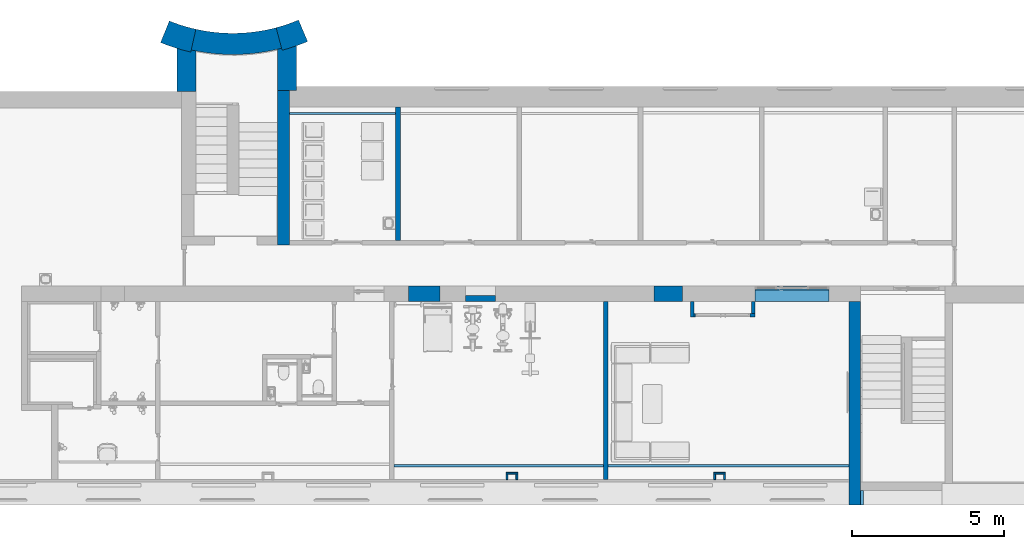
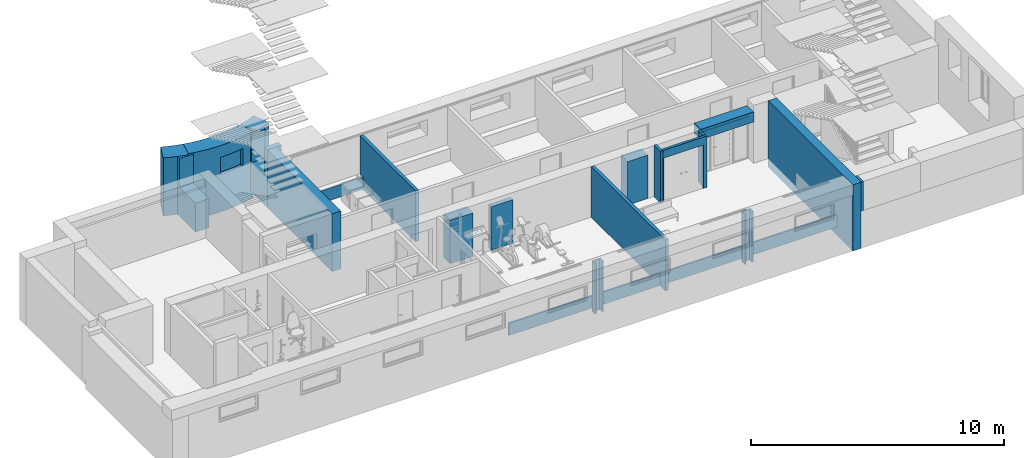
# One storey, part 5 of 23: 27 walls, 9 openings.
"""IFC2X3 building model written with IfcOpenShell, lengths in millimetres."""

from ifc_helpers import new_model, entity, si_unit, converted_unit, derived_unit, direction, frame, frame_2d, origin, origin_2d_with_axis, place, context, subcontext, project, spatial, polyline, circle_curve, parameter, trimmed, segment, composite_curve, rectangle, outline, extrude, material, layer, layer_set, layer_usage, type_object, element, save


model = new_model("IFC2X3")

# Units and contexts
model_context = context("Model", 3, precision=0.01, world=origin(), true_north=direction((6.12303176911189e-17, 1.0)))
body_context = subcontext(model_context, "Body", "Model", "MODEL_VIEW")
ifc_project = project(units=[si_unit("LENGTHUNIT", "METRE", prefix="MILLI"), si_unit("AREAUNIT", "SQUARE_METRE"), si_unit("VOLUMEUNIT", "CUBIC_METRE"), converted_unit("PLANEANGLEUNIT", "DEGREE", entity("IfcRatioMeasure", 0.0174532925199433), si_unit("PLANEANGLEUNIT", "RADIAN"), dimensions=[0, 0, 0, 0, 0, 0, 0]), si_unit("MASSUNIT", "GRAM", prefix="KILO"), derived_unit("MASSDENSITYUNIT", [(si_unit("MASSUNIT", "GRAM", prefix="KILO"), 1), (si_unit("LENGTHUNIT", "METRE"), -3)]), si_unit("TIMEUNIT", "SECOND"), si_unit("FREQUENCYUNIT", "HERTZ"), si_unit("THERMODYNAMICTEMPERATUREUNIT", "DEGREE_CELSIUS"), derived_unit("THERMALTRANSMITTANCEUNIT", [(si_unit("MASSUNIT", "GRAM", prefix="KILO"), 1), (si_unit("THERMODYNAMICTEMPERATUREUNIT", "KELVIN"), -1), (si_unit("TIMEUNIT", "SECOND"), -3)]), derived_unit("VOLUMETRICFLOWRATEUNIT", [(si_unit("LENGTHUNIT", "METRE"), 3), (si_unit("TIMEUNIT", "SECOND"), -1)]), si_unit("ELECTRICCURRENTUNIT", "AMPERE"), si_unit("ELECTRICVOLTAGEUNIT", "VOLT"), si_unit("POWERUNIT", "WATT"), si_unit("FORCEUNIT", "NEWTON", prefix="KILO"), si_unit("ILLUMINANCEUNIT", "LUX"), si_unit("LUMINOUSFLUXUNIT", "LUMEN"), si_unit("LUMINOUSINTENSITYUNIT", "CANDELA"), derived_unit("USERDEFINED", [(si_unit("MASSUNIT", "GRAM", prefix="KILO"), -1), (si_unit("LENGTHUNIT", "METRE"), -2), (si_unit("TIMEUNIT", "SECOND"), 3), (si_unit("LUMINOUSFLUXUNIT", "LUMEN"), 1)]), derived_unit("LINEARVELOCITYUNIT", [(si_unit("LENGTHUNIT", "METRE"), 1), (si_unit("TIMEUNIT", "SECOND"), -1)]), si_unit("PRESSUREUNIT", "PASCAL"), derived_unit("USERDEFINED", [(si_unit("LENGTHUNIT", "METRE"), -2), (si_unit("MASSUNIT", "GRAM", prefix="KILO"), 1), (si_unit("TIMEUNIT", "SECOND"), -2)]), derived_unit("LINEARFORCEUNIT", [(si_unit("MASSUNIT", "GRAM", prefix="KILO"), 1), (si_unit("LENGTHUNIT", "METRE"), 1), (si_unit("TIMEUNIT", "SECOND"), -2), (si_unit("LENGTHUNIT", "METRE"), -1)]), derived_unit("PLANARFORCEUNIT", [(si_unit("MASSUNIT", "GRAM", prefix="KILO"), 1), (si_unit("LENGTHUNIT", "METRE"), 1), (si_unit("TIMEUNIT", "SECOND"), -2), (si_unit("LENGTHUNIT", "METRE"), -2)])], contexts=[model_context])

# Site, building, storey
site_placement = place(None, origin())
site = spatial("IfcSite", under=ifc_project, at=site_placement, Name="Default", CompositionType="ELEMENT")
building_placement = place(site_placement, origin())
building = spatial("IfcBuilding", under=site, at=building_placement, Name="SMA ARH", CompositionType="ELEMENT")
storey_placement = place(building_placement, frame((0.0, 0.0, -2800.0)))
storey = spatial("IfcBuildingStorey", under=building, at=storey_placement, Name="0 Sokkel", CompositionType="ELEMENT", Elevation=-2800.0)

# Wall, openings
ifc_material_1 = material(Name="_ol.olev sein")
ifc_layer_1 = layer(ifc_material_1, 700.0)
ifc_layer_set_1 = layer_set([ifc_layer_1], Name="Basic Wall:Generic - 700mm")
ifc_layer_usage_1 = layer_usage(ifc_layer_set_1, "AXIS2", "POSITIVE", -350.0)
wall_type_1 = type_object("IfcWallType", Name="Basic Wall:Generic - 700mm", PredefinedType="STANDARD", material=ifc_layer_set_1)
wall_1_placement = place(storey_placement, frame((11643.6960006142, 14708.1521207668, -405.950000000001)))
wall_1 = element("IfcWallStandardCase", 1, at=wall_1_placement, inside=storey, type_object=wall_type_1, material=ifc_layer_usage_1, Name="Basic Wall:Generic - 700mm", ObjectType="Basic Wall:Generic - 700mm", context=body_context, shape_type="SweptSolid", body=[
    extrude(outline(composite_curve([segment(trimmed(circle_curve(frame_2d((-1518.85216172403, 5721.98676812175), x_axis=(1.0, 0.0)), 6270.13888888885), [parameter(257.366310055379)], [parameter(284.86585519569)], True, "PARAMETER"), True, "CONTINUOUS"), segment(polyline([(89.7948961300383, -338.285200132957), (-89.7948961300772, 338.285200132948)]), True, "CONTINUOUS"), segment(trimmed(circle_curve(frame_2d((-1518.85216172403, 5721.98676812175), x_axis=(1.0, 0.0)), 5570.13888888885), [parameter(257.366310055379)], [parameter(284.86585519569)], True, "PARAMETER"), False, "CONTINUOUS"), segment(polyline([(-2737.13646946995, 286.710272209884), (-2890.23839967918, -396.341555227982)]), True, "CONTINUOUS")], self_intersect=False)), origin(), (0.0, 0.0, 1.0), 3205.95),
])
opening_1_placement = place(wall_1_placement, origin())
element("IfcOpeningElement", 2, at=opening_1_placement, cuts=wall_1, Name="Basic Wall:Generic - 700mm", ObjectType="Opening", context=body_context, shape_type="SweptSolid", body=[
    extrude(rectangle(XDim=469.999999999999, YDim=1050.0, at=frame_2d((0.0, 2.1600499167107e-12), x_axis=(1.0, 0.0))), frame((191.303999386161, -972.55664470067, 1805.95)), (0.0, 0.0, 1.0), 2099.99999999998),
])
opening_2_placement = place(wall_1_placement, origin())
element("IfcOpeningElement", 3, at=opening_2_placement, cuts=wall_1, Name="Basic Wall:Generic - 700mm", ObjectType="Opening", context=body_context, shape_type="SweptSolid", body=[
    extrude(outline(composite_curve([segment(trimmed(circle_curve(frame_2d((-47.0607839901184, 6119.12473077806), x_axis=(1.0, 0.0)), 6270.13888888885), [parameter(261.038833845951)], [parameter(279.775431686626)], True, "PARAMETER"), True, "CONTINUOUS"), segment(polyline([(1017.52692784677, -59.9767160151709), (981.283991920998, 75.2837622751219)]), True, "CONTINUOUS"), segment(trimmed(circle_curve(frame_2d((-47.0607839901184, 6159.12473077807), x_axis=(1.0, 0.0)), 6170.13888888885), [parameter(261.349588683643)], [parameter(279.593957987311)], True, "PARAMETER"), False, "CONTINUOUS"), segment(polyline([(-975.081981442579, 59.1746846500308), (-1023.72893832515, -74.4817309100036)]), True, "CONTINUOUS")], self_intersect=False)), frame((-1456.63521662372, -397.13796265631, 1805.95)), (0.0, 0.0, 1.0), 830.000000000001),
])

# Wall, opening
ifc_layer_2 = layer(ifc_material_1, 400.0)
ifc_layer_set_2 = layer_set([ifc_layer_2], Name="Basic Wall:Generic - 400mm")
ifc_layer_usage_2 = layer_usage(ifc_layer_set_2, "AXIS2", "POSITIVE", -200.0)
wall_type_2 = type_object("IfcWallType", Name="Basic Wall:Generic - 400mm", PredefinedType="STANDARD", material=ifc_layer_set_2)
wall_2_placement = place(storey_placement, frame((11800.0, 7875.0, 0.0), z_axis=(0.0, 0.0, 1.0), x_axis=(0.0, 1.0, 0.0)))
wall_2 = element("IfcWallStandardCase", 4, at=wall_2_placement, inside=storey, type_object=wall_type_2, material=ifc_layer_usage_2, Name="Basic Wall:Generic - 400mm", ObjectType="Basic Wall:Generic - 400mm", context=body_context, shape_type="SweptSolid", body=[
    extrude(rectangle(XDim=5100.00000000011, YDim=400.0, at=frame_2d((2550.00000000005, 2.8421709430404e-14), x_axis=(-1.0, 0.0))), origin(), (0.0, 0.0, 1.0), 2800.0),
])
opening_3_placement = place(wall_2_placement, origin())
element("IfcOpeningElement", 5, at=opening_3_placement, cuts=wall_2, Name="Basic Wall:Generic - 400mm", ObjectType="Opening", context=body_context, shape_type="SweptSolid", body=[
    extrude(rectangle(XDim=2099.99999999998, YDim=1050.0, at=origin_2d_with_axis()), frame((5860.59547606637, -1324.0, 2450.0), z_axis=(0.0, 1.0, 0.0), x_axis=(0.0, 0.0, 1.0)), (0.0, 0.0, 1.0), 3048.0),
])

ifc_layer_3 = layer(ifc_material_1, 770.0)
ifc_layer_set_3 = layer_set([ifc_layer_3], Name="Basic Wall:Generic - 770mm")
ifc_layer_usage_3 = layer_usage(ifc_layer_set_3, "AXIS2", "POSITIVE", -385.0)
wall_type_3 = type_object("IfcWallType", Name="Basic Wall:Generic - 770mm", PredefinedType="STANDARD", material=ifc_layer_set_3)
wall_3_placement = place(storey_placement, frame((12443.5635426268, 14944.9572035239, 0.0)))
wall_3 = element("IfcWallStandardCase", 6, at=wall_3_placement, inside=storey, type_object=wall_type_3, material=ifc_layer_usage_3, Name="Basic Wall:Generic - 770mm", ObjectType="Basic Wall:Generic - 770mm", context=body_context, shape_type="SweptSolid", body=[
    extrude(outline(composite_curve([segment(trimmed(circle_curve(frame_2d((-2318.71970373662, 5485.18168536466), x_axis=(1.0, 0.0)), 6340.13888888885), [parameter(284.86585519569)], [parameter(292.914962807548)], True, "PARAMETER"), True, "CONTINUOUS"), segment(polyline([(149.905334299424, -354.617245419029), (-149.905334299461, 354.617245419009)]), True, "CONTINUOUS"), segment(trimmed(circle_curve(frame_2d((-2318.71970373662, 5485.18168536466), x_axis=(1.0, 0.0)), 5570.13888888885), [parameter(284.86585519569)], [parameter(292.914962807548)], True, "PARAMETER"), False, "CONTINUOUS"), segment(polyline([(-889.662438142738, 101.48011737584), (-692.113666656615, -642.747322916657)]), True, "CONTINUOUS")], self_intersect=False)), origin(), (0.0, 0.0, 1.0), 2800.0),
])
opening_4_placement = place(wall_3_placement, origin())
element("IfcOpeningElement", 7, at=opening_4_placement, cuts=wall_3, Name="Basic Wall:Generic - 770mm", ObjectType="Opening", context=body_context, shape_type="SweptSolid", body=[
    extrude(rectangle(XDim=469.999999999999, YDim=1050.0, at=frame_2d((0.0, 2.1600499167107e-12), x_axis=(1.0, 0.0))), frame((-608.563542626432, -1209.36172745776, 1400.0)), (0.0, 0.0, 1.0), 2099.99999999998),
])

# Walls
ifc_layer_usage_4 = layer_usage(ifc_layer_set_3, "AXIS2", "POSITIVE", -385.0)
wall_4_placement = place(storey_placement, frame((8822.35346952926, 14619.1838878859, 0.0)))
element("IfcWallStandardCase", 8, at=wall_4_placement, inside=storey, type_object=wall_type_3, material=ifc_layer_usage_4, Name="Basic Wall:Generic - 770mm", ObjectType="Basic Wall:Generic - 770mm", context=body_context, shape_type="SweptSolid", body=[
    extrude(outline(composite_curve([segment(trimmed(circle_curve(frame_2d((1302.49036936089, 5810.95500100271), x_axis=(1.0, 0.0)), 6340.13888888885), [parameter(247.920826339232)], [parameter(257.36631005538)], True, "PARAMETER"), True, "CONTINUOUS"), segment(polyline([(-84.2060616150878, -375.678505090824), (84.2060616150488, 375.678505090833)]), True, "CONTINUOUS"), segment(trimmed(circle_curve(frame_2d((1302.49036936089, 5810.95500100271), x_axis=(1.0, 0.0)), 5570.13888888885), [parameter(247.920826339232)], [parameter(257.36631005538)], True, "PARAMETER"), False, "CONTINUOUS"), segment(polyline([(-791.254967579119, 649.300449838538), (-1080.68830875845, -64.2318486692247)]), True, "CONTINUOUS")], self_intersect=False)), origin(), (0.0, 0.0, 1.0), 2800.0),
])
ifc_layer_4 = layer(ifc_material_1, 510.0)
ifc_layer_set_4 = layer_set([ifc_layer_4], Name="Basic Wall:Generic - 510mm")
ifc_layer_usage_5 = layer_usage(ifc_layer_set_4, "AXIS2", "NEGATIVE", 255.0)
wall_type_4 = type_object("IfcWallType", Name="Basic Wall:Generic - 510mm", PredefinedType="STANDARD", material=ifc_layer_set_4)
wall_5_placement = place(storey_placement, frame((27360.0, 6260.0, 2000.0)))
element("IfcWallStandardCase", 9, at=wall_5_placement, inside=storey, type_object=wall_type_4, material=ifc_layer_usage_5, Name="Basic Wall:Generic - 510mm", ObjectType="Basic Wall:Generic - 510mm", context=body_context, shape_type="SweptSolid", body=[
    extrude(rectangle(XDim=2429.009468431, YDim=510.0, at=frame_2d((1215.01951564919, 8.66862137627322e-13), x_axis=(-1.0, 0.0))), origin(), (0.0, 0.0, 1.0), 490.0),
])
ifc_layer_5 = layer(ifc_material_1, 380.0)
ifc_layer_set_5 = layer_set([ifc_layer_5], Name="Basic Wall:Generic - 380mm")
ifc_layer_usage_6 = layer_usage(ifc_layer_set_5, "AXIS2", "POSITIVE", -190.0)
wall_type_5 = type_object("IfcWallType", Name="Basic Wall:Generic - 380mm", PredefinedType="STANDARD", material=ifc_layer_set_5)
wall_6_placement = place(storey_placement, frame((30640.0, 6010.0, -400.0), z_axis=(0.0, 0.0, 1.0), x_axis=(0.0, -1.0, 0.0)))
element("IfcWallStandardCase", 10, at=wall_6_placement, inside=storey, type_object=wall_type_5, material=ifc_layer_usage_6, Name="Basic Wall:Generic - 380mm", ObjectType="Basic Wall:Generic - 380mm", context=body_context, shape_type="SweptSolid", body=[
    extrude(rectangle(XDim=6710.00000000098, YDim=380.0, at=frame_2d((3355.00000000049, 5.11590769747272e-13), x_axis=(-1.0, 0.0))), origin(), (0.0, 0.0, 1.0), 3199.99999999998),
])
ifc_layer_6 = layer(ifc_material_1, 470.0)
ifc_layer_set_6 = layer_set([ifc_layer_6], Name="Basic Wall:Generic - 470mm")
ifc_layer_usage_7 = layer_usage(ifc_layer_set_6, "AXIS2", "POSITIVE", -235.0)
wall_type_6 = type_object("IfcWallType", Name="Basic Wall:Generic - 470mm", PredefinedType="STANDARD", material=ifc_layer_set_6)
wall_7_placement = place(storey_placement, frame((30830.0, -465.0, 1400.0)))
element("IfcWallStandardCase", 11, at=wall_7_placement, inside=storey, type_object=wall_type_6, material=ifc_layer_usage_7, Name="Basic Wall:Generic - 470mm", ObjectType="Basic Wall:Generic - 470mm", context=body_context, shape_type="SweptSolid", body=[
    extrude(rectangle(XDim=99.9999999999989, YDim=470.0, at=frame_2d((49.9999999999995, -2.8421709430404e-14), x_axis=(-1.0, 0.0))), origin(), (0.0, 0.0, 1.0), 1400.0),
])

# Wall, opening
ifc_layer_7 = layer(ifc_material_1, 630.0)
ifc_layer_set_7 = layer_set([ifc_layer_7], Name="Basic Wall:Generic - 630mm")
ifc_layer_usage_8 = layer_usage(ifc_layer_set_7, "AXIS2", "POSITIVE", -315.0)
wall_type_7 = type_object("IfcWallType", Name="Basic Wall:Generic - 630mm", PredefinedType="STANDARD", material=ifc_layer_set_7)
wall_8_placement = place(storey_placement, frame((8595.0, 14364.3403148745, 0.0), z_axis=(0.0, 0.0, 1.0), x_axis=(0.0, -1.0, 0.0)))
wall_8 = element("IfcWallStandardCase", 12, at=wall_8_placement, inside=storey, type_object=wall_type_7, material=ifc_layer_usage_8, Name="Basic Wall:Generic - 630mm", ObjectType="Basic Wall:Generic - 630mm", context=body_context, shape_type="SweptSolid", body=[
    extrude(outline(composite_curve([segment(polyline([(1418.13727197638, -315.0), (1418.13727197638, -155.0)]), True, "CONTINUOUS"), segment(polyline([(1418.13727197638, -155.0), (1418.13727197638, 315.0)]), True, "CONTINUOUS"), segment(polyline([(1418.13727197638, 315.0), (85.5261721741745, 315.0)]), True, "CONTINUOUS"), segment(trimmed(circle_curve(frame_2d((-6065.79857401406, 1529.8438388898), x_axis=(0.256556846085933, -0.966529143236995)), 6270.13888888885), [parameter(62.5004548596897)], [parameter(63.9623922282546)], True, "PARAMETER"), False, "CONTINUOUS"), segment(polyline([(52.5297493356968, 158.457600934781), (120.834932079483, 143.147407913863)]), True, "CONTINUOUS"), segment(trimmed(circle_curve(frame_2d((-6065.79857401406, 1529.8438388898), x_axis=(-0.218717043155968, -0.975788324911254)), 6340.13888888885), [parameter(85.7171459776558)], [parameter(90.0000000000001)], True, "PARAMETER"), False, "CONTINUOUS"), segment(polyline([(0.0, -315.0), (1418.13727197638, -315.0)]), True, "CONTINUOUS")], self_intersect=False)), origin(), (0.0, 0.0, 1.0), 2800.0),
])
opening_5_placement = place(wall_8_placement, origin())
element("IfcOpeningElement", 13, at=opening_5_placement, cuts=wall_8, Name="Basic Wall:Generic - 630mm", ObjectType="Opening", context=body_context, shape_type="SweptSolid", body=[
    extrude(rectangle(XDim=2099.99999999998, YDim=1250.0, at=frame_2d((-1.13686837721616e-12, 0.0), x_axis=(0.0, 1.0))), frame((794.340314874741, -1409.0, 2450.0), z_axis=(0.0, 1.0, 0.0), x_axis=(-1.0, 0.0, 0.0)), (0.0, 0.0, 1.0), 3048.0),
])

ifc_layer_usage_9 = layer_usage(ifc_layer_set_7, "AXIS2", "POSITIVE", -315.0)
wall_9_placement = place(storey_placement, frame((11915.0, 12975.0, 0.0), z_axis=(0.0, 0.0, 1.0), x_axis=(0.0, 1.0, 0.0)))
wall_9 = element("IfcWallStandardCase", 14, at=wall_9_placement, inside=storey, type_object=wall_type_7, material=ifc_layer_usage_9, Name="Basic Wall:Generic - 630mm", ObjectType="Basic Wall:Generic - 630mm", context=body_context, shape_type="SweptSolid", body=[
    extrude(outline(composite_curve([segment(trimmed(circle_curve(frame_2d((7455.13888888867, 1790.1561611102), x_axis=(-0.513697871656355, 0.857971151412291)), 6340.13888888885), [parameter(73.9553966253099)], [parameter(78.4819578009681)], True, "PARAMETER"), False, "CONTINUOUS"), segment(polyline([(1327.20988060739, 163.550124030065), (1394.86692063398, 181.509103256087)]), True, "CONTINUOUS"), segment(trimmed(circle_curve(frame_2d((7455.13888888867, 1790.1561611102), x_axis=(-0.256556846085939, 0.966529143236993)), 6270.13888888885), [parameter(88.741501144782)], [parameter(90.0000000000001)], True, "PARAMETER"), False, "CONTINUOUS"), segment(polyline([(1360.99776923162, 315.0), (0.0, 315.0)]), True, "CONTINUOUS"), segment(polyline([(0.0, 315.0), (0.0, -85.0)]), True, "CONTINUOUS"), segment(polyline([(0.0, -85.0), (0.0, -315.0)]), True, "CONTINUOUS"), segment(polyline([(0.0, -315.0), (1474.69754499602, -315.0)]), True, "CONTINUOUS")], self_intersect=False)), origin(), (0.0, 0.0, 1.0), 2800.0),
])
opening_6_placement = place(wall_9_placement, origin())
element("IfcOpeningElement", 15, at=opening_6_placement, cuts=wall_9, Name="Basic Wall:Generic - 630mm", ObjectType="Opening", context=body_context, shape_type="SweptSolid", body=[
    extrude(rectangle(XDim=2099.99999999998, YDim=1050.0, at=origin_2d_with_axis()), frame((760.595476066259, -1209.0, 2450.0), z_axis=(0.0, 1.0, 0.0), x_axis=(0.0, 0.0, 1.0)), (0.0, 0.0, 1.0), 3048.0),
])

# Wall
ifc_material_2 = material(Name="EST. Ehitusplaat. Kipsplaat")
ifc_layer_8 = layer(ifc_material_2, 12.5)
ifc_layer_9 = layer(ifc_material_2, 12.5)
ifc_material_3 = material(Name="EST. Soojustus. Mineraalvill. Default")
ifc_layer_10 = layer(ifc_material_3, 66.0)
ifc_layer_11 = layer(ifc_material_2, 12.5)
ifc_layer_12 = layer(ifc_material_2, 12.5)
ifc_layer_set_8 = layer_set([ifc_layer_8, ifc_layer_9, ifc_layer_10, ifc_layer_11, ifc_layer_12], Name="Basic Wall:SS-05_Kips, 66mm metallkarkass")
ifc_layer_usage_10 = layer_usage(ifc_layer_set_8, "AXIS2", "NEGATIVE", 58.0)
wall_type_8 = type_object("IfcWallType", Name="Basic Wall:SS-05_Kips, 66mm metallkarkass", PredefinedType="STANDARD", material=ifc_layer_set_8)
wall_10_placement = place(storey_placement, frame((25286.514781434, 6010.0, 0.0), z_axis=(0.0, 0.0, 1.0), x_axis=(0.0, -1.0, 0.0)))
element("IfcWallStandardCase", 16, at=wall_10_placement, inside=storey, type_object=wall_type_8, material=ifc_layer_usage_10, Name="Basic Wall:SS-05_Kips, 66mm metallkarkass", ObjectType="Basic Wall:SS-05_Kips, 66mm metallkarkass", context=body_context, shape_type="SweptSolid", body=[
    extrude(rectangle(XDim=506.000000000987, YDim=116.0, at=frame_2d((253.000000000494, 0.0), x_axis=(-1.0, 0.0))), origin(), (0.0, 0.0, 1.0), 2480.0),
])

# Wall, opening
ifc_layer_usage_11 = layer_usage(ifc_layer_set_8, "AXIS2", "NEGATIVE", 58.0)
wall_11_placement = place(storey_placement, frame((25344.514781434, 5562.0, 0.0)))
wall_11 = element("IfcWallStandardCase", 17, at=wall_11_placement, inside=storey, type_object=wall_type_8, material=ifc_layer_usage_11, Name="Basic Wall:SS-05_Kips, 66mm metallkarkass", ObjectType="Basic Wall:SS-05_Kips, 66mm metallkarkass", context=body_context, shape_type="SweptSolid", body=[
    extrude(rectangle(XDim=2016.00000000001, YDim=116.0, at=frame_2d((1008.0, 0.0), x_axis=(-1.0, 0.0))), origin(), (0.0, 0.0, 1.0), 2480.0),
])
opening_7_placement = place(wall_11_placement, frame((1850.0, 58.0, 0.0)))
element("IfcOpeningElement", 18, at=opening_7_placement, cuts=wall_11, Name="SMA_D02, 2-poolne:SU-M-05 - 1800x2100:1", ObjectType="Opening", context=body_context, shape_type="SweptSolid", body=[
    extrude(rectangle(XDim=2099.99999999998, YDim=1800.0, at=frame_2d((1049.99999999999, 900.0), x_axis=(1.0, 0.0))), frame((0.0, 0.0, 0.0), z_axis=(0.0, -1.0, 0.0), x_axis=(0.0, 0.0, 1.0)), (0.0, 0.0, 1.0), 116.0),
])

# Walls
ifc_layer_usage_12 = layer_usage(ifc_layer_set_8, "AXIS2", "NEGATIVE", 58.0)
wall_12_placement = place(storey_placement, frame((27302.514781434, 5620.0, 0.0), z_axis=(0.0, 0.0, 1.0), x_axis=(0.0, 1.0, 0.0)))
element("IfcWallStandardCase", 19, at=wall_12_placement, inside=storey, type_object=wall_type_8, material=ifc_layer_usage_12, Name="Basic Wall:SS-05_Kips, 66mm metallkarkass", ObjectType="Basic Wall:SS-05_Kips, 66mm metallkarkass", context=body_context, shape_type="SweptSolid", body=[
    extrude(rectangle(XDim=390.000000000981, YDim=116.0, at=frame_2d((195.000000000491, 0.0), x_axis=(-1.0, 0.0))), origin(), (0.0, 0.0, 1.0), 2480.0),
])
ifc_material_4 = material(Name="EST. Müüritis. Väikeplokk. Kergkruusplokk")
ifc_layer_13 = layer(ifc_material_4, 200.0)
ifc_layer_set_9 = layer_set([ifc_layer_13], Name="Basic Wall:SS-00_Fibo 200mm")
ifc_layer_usage_13 = layer_usage(ifc_layer_set_9, "AXIS2", "POSITIVE", -100.0)
wall_type_9 = type_object("IfcWallType", Name="Basic Wall:SS-00_Fibo 200mm", PredefinedType="STANDARD", material=ifc_layer_set_9)
wall_13_placement = place(storey_placement, frame((17793.704391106, 6110.0, 0.0)))
element("IfcWallStandardCase", 20, at=wall_13_placement, inside=storey, type_object=wall_type_9, material=ifc_layer_usage_13, Name="Basic Wall:SS-00_Fibo 200mm", ObjectType="Basic Wall:SS-00_Fibo 200mm", context=body_context, shape_type="SweptSolid", body=[
    extrude(rectangle(XDim=995.39717615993, YDim=200.0, at=frame_2d((497.698588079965, -1.4210854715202e-14), x_axis=(-1.0, 0.0))), origin(), (0.0, 0.0, 1.0), 2100.0),
])
ifc_layer_14 = layer(ifc_material_4, 510.0)
ifc_layer_set_10 = layer_set([ifc_layer_14], Name="Basic Wall:SS-03_Fibo 510mm kinnilaotav ava")
ifc_layer_usage_14 = layer_usage(ifc_layer_set_10, "AXIS2", "POSITIVE", -255.0)
wall_type_10 = type_object("IfcWallType", Name="Basic Wall:SS-03_Fibo 510mm kinnilaotav ava", PredefinedType="STANDARD", material=ifc_layer_set_10)
wall_14_placement = place(storey_placement, frame((24014.5301609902, 6265.0, 0.0)))
element("IfcWallStandardCase", 21, at=wall_14_placement, inside=storey, type_object=wall_type_10, material=ifc_layer_usage_14, Name="Basic Wall:SS-03_Fibo 510mm kinnilaotav ava", ObjectType="Basic Wall:SS-03_Fibo 510mm kinnilaotav ava", context=body_context, shape_type="SweptSolid", body=[
    extrude(rectangle(XDim=941.643935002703, YDim=510.000000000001, at=frame_2d((470.821967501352, 4.40536496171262e-13), x_axis=(-1.0, 0.0))), origin(), (0.0, 0.0, 1.0), 2100.0),
])
ifc_layer_usage_15 = layer_usage(ifc_layer_set_10, "AXIS2", "POSITIVE", -255.0)
wall_15_placement = place(storey_placement, frame((15920.0, 6265.0, 0.0)))
element("IfcWallStandardCase", 22, at=wall_15_placement, inside=storey, type_object=wall_type_10, material=ifc_layer_usage_15, Name="Basic Wall:SS-03_Fibo 510mm kinnilaotav ava", ObjectType="Basic Wall:SS-03_Fibo 510mm kinnilaotav ava", context=body_context, shape_type="SweptSolid", body=[
    extrude(rectangle(XDim=1040.00000000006, YDim=510.000000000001, at=frame_2d((520.000000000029, 0.0), x_axis=(-1.0, 0.0))), origin(), (0.0, 0.0, 1.0), 2100.0),
])
ifc_layer_15 = layer(ifc_material_4, 150.0)
ifc_layer_set_11 = layer_set([ifc_layer_15], Name="Basic Wall:SS-01_ 150mm soklikorruse seinad")
ifc_layer_usage_16 = layer_usage(ifc_layer_set_11, "AXIS2", "NEGATIVE", 75.0)
wall_type_11 = type_object("IfcWallType", Name="Basic Wall:SS-01_ 150mm soklikorruse seinad", PredefinedType="STANDARD", material=ifc_layer_set_11)
wall_16_placement = place(storey_placement, frame((22435.0, 6010.0, 0.0), z_axis=(0.0, 0.0, 1.0), x_axis=(0.0, -1.0, 0.0)))
element("IfcWallStandardCase", 23, at=wall_16_placement, inside=storey, type_object=wall_type_11, material=ifc_layer_usage_16, Name="Basic Wall:SS-01_ 150mm soklikorruse seinad", ObjectType="Basic Wall:SS-01_ 150mm soklikorruse seinad", context=body_context, shape_type="SweptSolid", body=[
    extrude(rectangle(XDim=5875.00000000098, YDim=150.000000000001, at=frame_2d((2937.50000000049, 0.0), x_axis=(-1.0, 0.0))), origin(), (0.0, 0.0, 1.0), 2450.0),
])
ifc_layer_usage_17 = layer_usage(ifc_layer_set_11, "AXIS2", "NEGATIVE", 75.0)
wall_17_placement = place(storey_placement, frame((15575.0, 8025.0, -5.95000000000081), z_axis=(0.0, 0.0, 1.0), x_axis=(0.0, 1.0, 0.0)))
element("IfcWallStandardCase", 24, at=wall_17_placement, inside=storey, type_object=wall_type_11, material=ifc_layer_usage_17, Name="Basic Wall:SS-01_ 150mm soklikorruse seinad", ObjectType="Basic Wall:SS-01_ 150mm soklikorruse seinad", context=body_context, shape_type="SweptSolid", body=[
    extrude(rectangle(XDim=4410.00000000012, YDim=150.000000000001, at=frame_2d((2205.00000000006, 1.70530256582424e-13), x_axis=(-1.0, 0.0))), origin(), (0.0, 0.0, 1.0), 2455.95),
])

# Wall, openings
ifc_layer_16 = layer(ifc_material_1, 120.0)
ifc_layer_set_12 = layer_set([ifc_layer_16], Name="Basic Wall:Generic - 120mm")
ifc_layer_usage_18 = layer_usage(ifc_layer_set_12, "AXIS2", "NEGATIVE", 60.0)
wall_type_12 = type_object("IfcWallType", Name="Basic Wall:Generic - 120mm", PredefinedType="STANDARD", material=ifc_layer_set_12)
wall_18_placement = place(storey_placement, frame((27360.0, 6460.0, 2000.0)))
wall_18 = element("IfcWallStandardCase", 25, at=wall_18_placement, inside=storey, type_object=wall_type_12, material=ifc_layer_usage_18, Name="Basic Wall:Generic - 120mm", ObjectType="Basic Wall:Generic - 120mm", context=body_context, shape_type="SweptSolid", body=[
    extrude(rectangle(XDim=2429.52424986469, YDim=120.000000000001, at=frame_2d((1214.76212493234, 3.19744231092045e-13), x_axis=(-1.0, 0.0))), origin(), (0.0, 0.0, 1.0), 49.9999999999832),
])
opening_8_placement = place(wall_18_placement, origin())
element("IfcOpeningElement", 26, at=opening_8_placement, cuts=wall_18, Name="Basic Wall:Generic - 120mm", ObjectType="Opening", context=body_context, shape_type="SweptSolid", body=[
    extrude(rectangle(XDim=2000.0, YDim=715.000000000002, at=origin_2d_with_axis()), frame((2072.02424986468, -212.399999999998, -1000.0), z_axis=(0.0, 1.0, 0.0), x_axis=(0.0, 0.0, -1.0)), (0.0, 0.0, 1.0), 424.8),
    extrude(rectangle(XDim=2000.0, YDim=714.524249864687, at=frame_2d((-1.70530256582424e-13, 0.0), x_axis=(1.0, 0.0))), frame((357.262124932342, -212.399999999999, -1000.0), z_axis=(0.0, 1.0, 0.0), x_axis=(0.0, 0.0, 1.0)), (0.0, 0.0, 1.0), 424.8),
])
opening_9_placement = place(wall_18_placement, origin())
element("IfcOpeningElement", 27, at=opening_9_placement, cuts=wall_18, Name="Basic Wall:Generic - 120mm", ObjectType="Opening", context=body_context, shape_type="SweptSolid", body=[
    extrude(rectangle(XDim=1999.99999999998, YDim=999.999999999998, at=frame_2d((0.0, 1.70530256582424e-13), x_axis=(0.0, 1.0))), frame((1214.52424986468, -1464.0, -1000.0), z_axis=(0.0, 1.0, 0.0), x_axis=(-1.0, 0.0, 0.0)), (0.0, 0.0, 1.0), 3048.0),
])

# Walls
ifc_layer_17 = layer(ifc_material_2, 12.5)
ifc_layer_18 = layer(ifc_material_2, 12.5)
ifc_material_5 = material(Name="EST. Õhkvahe. Roov. Kipsplaadi alusroov. Vertikaalne")
ifc_layer_19 = layer(ifc_material_5, 50.0)
ifc_layer_set_13 = layer_set([ifc_layer_17, ifc_layer_18, ifc_layer_19], Name="Basic Wall:SS-00_Kips, 50mm metallkarkass ühe poolne")
ifc_layer_usage_19 = layer_usage(ifc_layer_set_13, "AXIS2", "POSITIVE", -37.5)
wall_type_13 = type_object("IfcWallType", Name="Basic Wall:SS-00_Kips, 50mm metallkarkass ühe poolne", PredefinedType="STANDARD", material=ifc_layer_set_13)
wall_19_placement = place(storey_placement, frame((22360.0, 597.500000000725, 0.0), z_axis=(0.0, 0.0, 1.0), x_axis=(-1.0, 0.0, 0.0)))
element("IfcWallStandardCase", 28, at=wall_19_placement, inside=storey, type_object=wall_type_13, material=ifc_layer_usage_19, Name="Basic Wall:SS-00_Kips, 50mm metallkarkass ühe poolne", ObjectType="Basic Wall:SS-00_Kips, 50mm metallkarkass ühe poolne", context=body_context, shape_type="SweptSolid", body=[
    extrude(rectangle(XDim=6910.00000000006, YDim=74.9999999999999, at=frame_2d((3455.00000000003, -1.06581410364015e-14), x_axis=(-1.0, 0.0))), origin(), (0.0, 0.0, 1.0), 590.0),
])
ifc_layer_usage_20 = layer_usage(ifc_layer_set_13, "AXIS2", "NEGATIVE", 37.5)
wall_20_placement = place(storey_placement, frame((22510.0, 597.500000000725, 0.0)))
element("IfcWallStandardCase", 29, at=wall_20_placement, inside=storey, type_object=wall_type_13, material=ifc_layer_usage_20, Name="Basic Wall:SS-00_Kips, 50mm metallkarkass ühe poolne", ObjectType="Basic Wall:SS-00_Kips, 50mm metallkarkass ühe poolne", context=body_context, shape_type="SweptSolid", body=[
    extrude(rectangle(XDim=7939.99999999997, YDim=74.9999999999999, at=frame_2d((3969.99999999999, -5.6843418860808e-14), x_axis=(-1.0, 0.0))), origin(), (0.0, 0.0, 1.0), 590.0),
])
ifc_layer_usage_21 = layer_usage(ifc_layer_set_13, "AXIS2", "NEGATIVE", 37.5)
wall_21_placement = place(storey_placement, frame((15500.0, 12217.4999999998, 0.0), z_axis=(0.0, 0.0, 1.0), x_axis=(-1.0, 0.0, 0.0)))
element("IfcWallStandardCase", 30, at=wall_21_placement, inside=storey, type_object=wall_type_13, material=ifc_layer_usage_21, Name="Basic Wall:SS-00_Kips, 50mm metallkarkass ühe poolne", ObjectType="Basic Wall:SS-00_Kips, 50mm metallkarkass ühe poolne", context=body_context, shape_type="SweptSolid", body=[
    extrude(rectangle(XDim=3500.0, YDim=75.0000000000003, at=frame_2d((1750.0, 2.1316282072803e-14), x_axis=(-1.0, 0.0))), origin(), (0.0, 0.0, 1.0), 590.0),
])
ifc_layer_20 = layer(ifc_material_3, 50.0)
ifc_layer_21 = layer(ifc_material_2, 12.5)
ifc_layer_set_14 = layer_set([ifc_layer_20, ifc_layer_21], Name="Basic Wall:SS-05_Kips, 50mm metallkarkass")
ifc_layer_usage_22 = layer_usage(ifc_layer_set_14, "AXIS2", "POSITIVE", -31.25)
wall_type_14 = type_object("IfcWallType", Name="Basic Wall:SS-05_Kips, 50mm metallkarkass", PredefinedType="STANDARD", material=ifc_layer_set_14)
wall_22_placement = place(storey_placement, frame((19141.203236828, 347.499999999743, 0.0)))
element("IfcWallStandardCase", 31, at=wall_22_placement, inside=storey, type_object=wall_type_14, material=ifc_layer_usage_22, Name="Basic Wall:SS-05_Kips, 50mm metallkarkass", ObjectType="Basic Wall:SS-05_Kips, 50mm metallkarkass", context=body_context, shape_type="SweptSolid", body=[
    extrude(rectangle(XDim=387.500000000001, YDim=62.5, at=frame_2d((193.75, -1.59872115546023e-14), x_axis=(-1.0, 0.0))), origin(), (0.0, 0.0, 1.0), 2450.0),
])
ifc_layer_usage_23 = layer_usage(ifc_layer_set_14, "AXIS2", "POSITIVE", -31.25)
wall_23_placement = place(storey_placement, frame((19497.453236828, 316.249999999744, 0.0), z_axis=(0.0, 0.0, 1.0), x_axis=(0.0, -1.0, 0.0)))
element("IfcWallStandardCase", 32, at=wall_23_placement, inside=storey, type_object=wall_type_14, material=ifc_layer_usage_23, Name="Basic Wall:SS-05_Kips, 50mm metallkarkass", ObjectType="Basic Wall:SS-05_Kips, 50mm metallkarkass", context=body_context, shape_type="SweptSolid", body=[
    extrude(rectangle(XDim=181.250000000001, YDim=62.4999999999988, at=frame_2d((90.6250000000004, 0.0), x_axis=(-1.0, 0.0))), origin(), (0.0, 0.0, 1.0), 2450.0),
])
ifc_layer_usage_24 = layer_usage(ifc_layer_set_14, "AXIS2", "NEGATIVE", 31.25)
wall_24_placement = place(storey_placement, frame((19172.453236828, 316.249999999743, 0.0), z_axis=(0.0, 0.0, 1.0), x_axis=(0.0, -1.0, 0.0)))
element("IfcWallStandardCase", 33, at=wall_24_placement, inside=storey, type_object=wall_type_14, material=ifc_layer_usage_24, Name="Basic Wall:SS-05_Kips, 50mm metallkarkass", ObjectType="Basic Wall:SS-05_Kips, 50mm metallkarkass", context=body_context, shape_type="SweptSolid", body=[
    extrude(rectangle(XDim=181.249999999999, YDim=62.4999999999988, at=frame_2d((90.6249999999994, 0.0), x_axis=(-1.0, 0.0))), origin(), (0.0, 0.0, 1.0), 2450.0),
])
ifc_layer_usage_25 = layer_usage(ifc_layer_set_14, "AXIS2", "POSITIVE", -31.25)
wall_25_placement = place(storey_placement, frame((25991.2032368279, 347.499999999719, 0.0)))
element("IfcWallStandardCase", 34, at=wall_25_placement, inside=storey, type_object=wall_type_14, material=ifc_layer_usage_25, Name="Basic Wall:SS-05_Kips, 50mm metallkarkass", ObjectType="Basic Wall:SS-05_Kips, 50mm metallkarkass", context=body_context, shape_type="SweptSolid", body=[
    extrude(rectangle(XDim=387.500000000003, YDim=62.5, at=frame_2d((193.750000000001, -1.59872115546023e-14), x_axis=(-1.0, 0.0))), origin(), (0.0, 0.0, 1.0), 2450.0),
])
ifc_layer_usage_26 = layer_usage(ifc_layer_set_14, "AXIS2", "POSITIVE", -31.25)
wall_26_placement = place(storey_placement, frame((26347.4532368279, 316.249999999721, 0.0), z_axis=(0.0, 0.0, 1.0), x_axis=(0.0, -1.0, 0.0)))
element("IfcWallStandardCase", 35, at=wall_26_placement, inside=storey, type_object=wall_type_14, material=ifc_layer_usage_26, Name="Basic Wall:SS-05_Kips, 50mm metallkarkass", ObjectType="Basic Wall:SS-05_Kips, 50mm metallkarkass", context=body_context, shape_type="SweptSolid", body=[
    extrude(rectangle(XDim=181.25, YDim=62.5000000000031, at=frame_2d((90.6249999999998, 0.0), x_axis=(-1.0, 0.0))), origin(), (0.0, 0.0, 1.0), 2450.0),
])
ifc_layer_usage_27 = layer_usage(ifc_layer_set_14, "AXIS2", "NEGATIVE", 31.25)
wall_27_placement = place(storey_placement, frame((26022.4532368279, 316.24999999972, 0.0), z_axis=(0.0, 0.0, 1.0), x_axis=(0.0, -1.0, 0.0)))
element("IfcWallStandardCase", 36, at=wall_27_placement, inside=storey, type_object=wall_type_14, material=ifc_layer_usage_27, Name="Basic Wall:SS-05_Kips, 50mm metallkarkass", ObjectType="Basic Wall:SS-05_Kips, 50mm metallkarkass", context=body_context, shape_type="SweptSolid", body=[
    extrude(rectangle(XDim=181.249999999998, YDim=62.5000000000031, at=frame_2d((90.6249999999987, 0.0), x_axis=(-1.0, 0.0))), origin(), (0.0, 0.0, 1.0), 2450.0),
])

save(model, "model.ifc")
